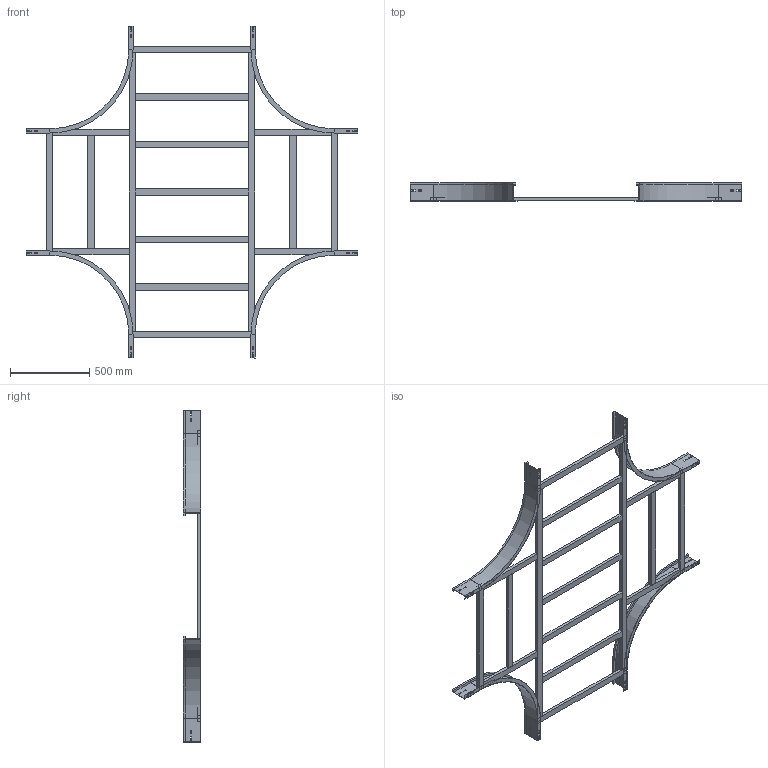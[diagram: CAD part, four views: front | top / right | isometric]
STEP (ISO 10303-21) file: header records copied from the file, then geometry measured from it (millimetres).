
FILE_DESCRIPTION (( 'STEP AP214' ), '1' );
FILE_NAME ('17B5J800.step', '2025-02-21T15:56:23', ( '' ), ( '' ), 'SwSTEP 2.0', 'SolidWorks 2023', '' );
FILE_SCHEMA (( 'AUTOMOTIVE_DESIGN' ));
Length unit declared in the file: millimetre
Products named in the file (7): TRAVERSINO_800; TRAVERSINO_COPPIA_800; LONGH.INTERNO 90°_H112.5_R500; TRAVERSINO_INTERMEDIO_R500+800; TRAVERSINO_VERT_R500; TRAVERSINO_LONG._R500+800; 17B5J800
Assembly tree (21 placements, depth 2):
  17B5J800
    LONGH.INTERNO 90°_H112.5_R500  x4
    TRAVERSINO_800  x4
    TRAVERSINO_LONG._R500+800  x2
    TRAVERSINO_INTERMEDIO_R500+800  x5
    TRAVERSINO_VERT_R500  x4
    TRAVERSINO_COPPIA_800  x2
Bounding box: 2100 x 112.5 x 2100 mm (x, y, z)
Volume: 13080050.5 mm3; surface area: 3034727.6 mm2
Topology: 21 solids, 21 shells, 334 faces, 812 edges, 520 vertices
Faces by surface type: plane 318, cylinder 16
Entity records: 2868 total; most frequent: CARTESIAN_POINT 460, DIRECTION 444, ORIENTED_EDGE 424, EDGE_CURVE 212, VECTOR 204, LINE 204, VERTEX_POINT 136, AXIS2_PLACEMENT_3D 120
